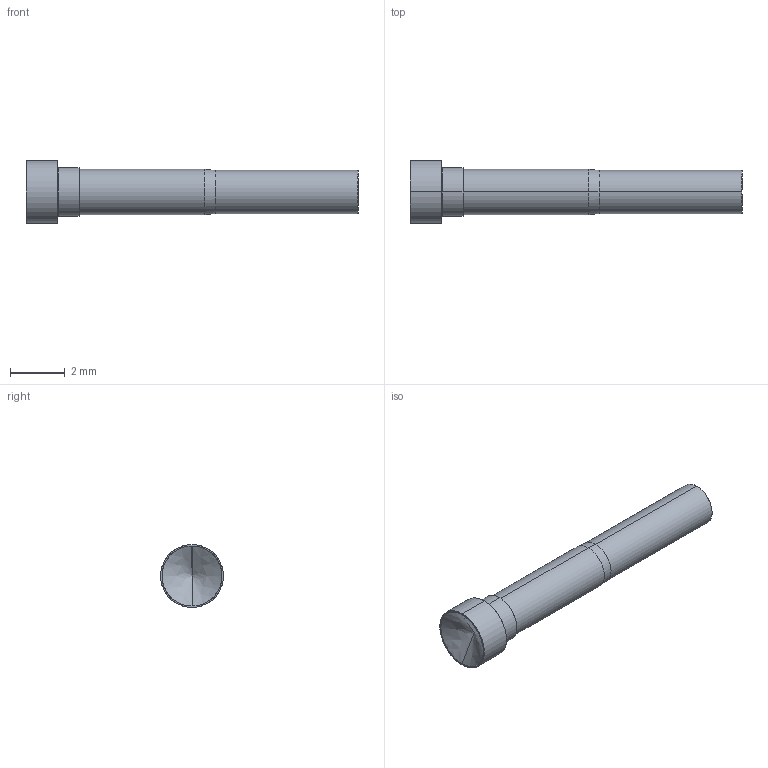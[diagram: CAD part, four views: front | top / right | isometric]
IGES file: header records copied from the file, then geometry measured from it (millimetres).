
Start section: SolidWorks IGES file using analytic representation for surfaces
Global section: file name: O:\PYLON\IGES FILES\E-S\E-S-V FULL.IGS; native system: SolidWorks 2015; preprocessor: SolidWorks 2015; author: kgolden; date: 171024.085527; units: inch
Bounding box: 12.09 x 2.29 x 2.29 mm (x, y, z)
Surface area: 84.8 mm2 (no closed solid volume)
Topology: 0 solids, 0 shells, 22 faces, 320 edges, 318 vertices
Faces by surface type: revolution 16, bspline 6
